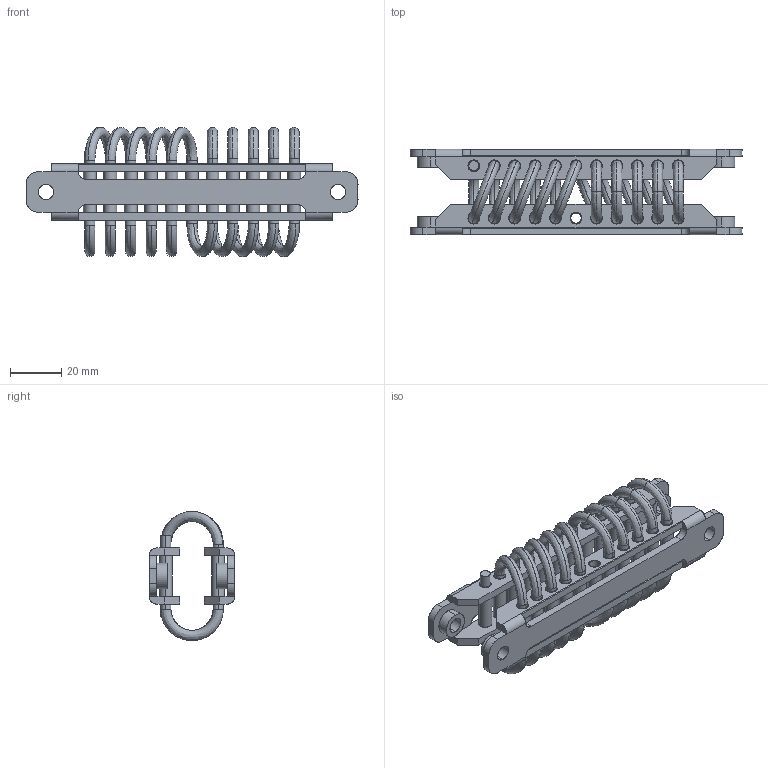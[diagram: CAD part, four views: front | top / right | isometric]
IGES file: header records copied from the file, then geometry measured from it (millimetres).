
Start section: SolidWorks IGES file using analytic representation for surfaces
Bounding box: 130 x 33.5 x 50.59 mm (x, y, z)
Surface area: 39149.9 mm2 (no closed solid volume)
Topology: 0 solids, 0 shells, 286 faces, 7760 edges, 7760 vertices
Faces by surface type: bspline 160, revolution 126
